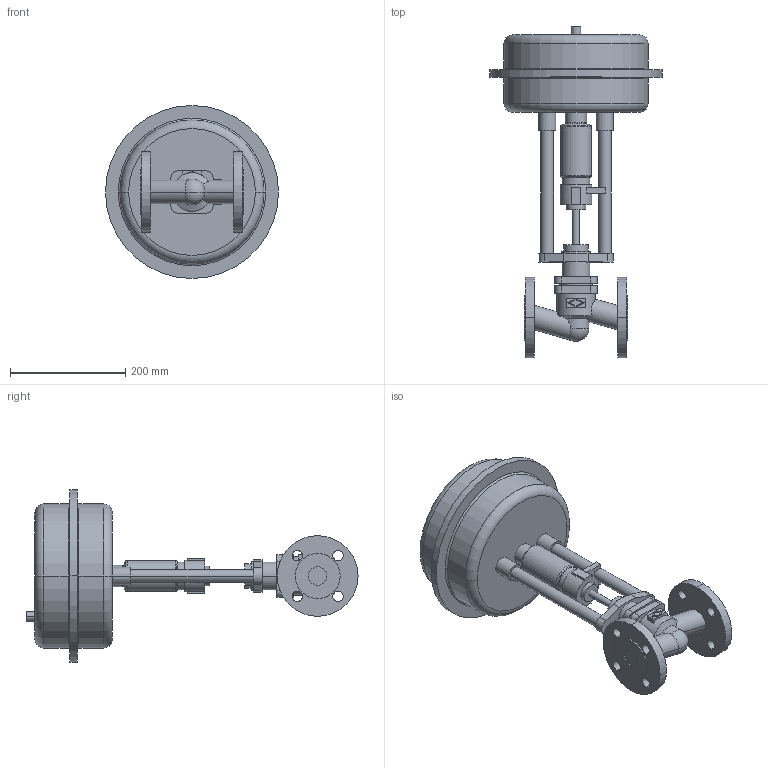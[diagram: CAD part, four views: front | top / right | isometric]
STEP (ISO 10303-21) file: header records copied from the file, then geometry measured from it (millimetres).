
FILE_DESCRIPTION(('OneSpaceDesigner STEP Export'),'2;1');
FILE_NAME('c000001486.stp','2005-02-15T 9:31:49',(''),(''),'OneSpace Designer STEP processor (Jan. 2003) for AP203(Solid Model)','OneSpace Designer 12.01D 09-Jul-2004 (C) CoCreate Software GmbH','');
FILE_SCHEMA(('CONFIG_CONTROL_DESIGN'));
Length unit declared in the file: millimetre
Products named in the file (2): 1; 2
Bounding box: 300 x 576.1 x 300 mm (x, y, z)
Volume: 8449213.1 mm3; surface area: 448536.9 mm2
Topology: 2 solids, 2 shells, 181 faces, 433 edges, 281 vertices
Faces by surface type: cylinder 84, plane 73, torus 16, cone 6, sphere 2
Entity records: 5030 total; most frequent: CARTESIAN_POINT 981, ORIENTED_EDGE 862, DIRECTION 727, EDGE_CURVE 431, VERTEX_POINT 281, AXIS2_PLACEMENT_3D 264, EDGE_LOOP 224, VECTOR 199
